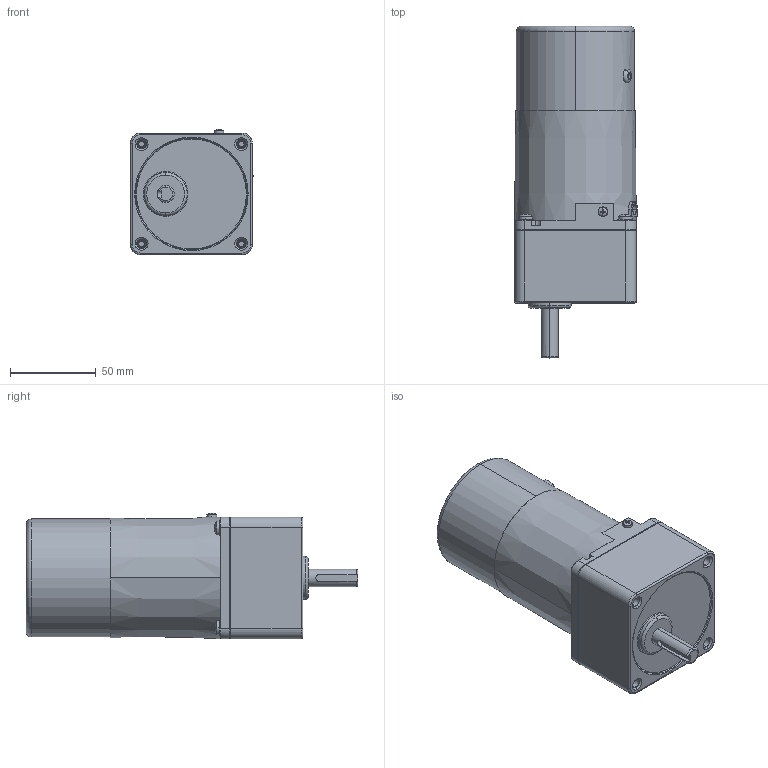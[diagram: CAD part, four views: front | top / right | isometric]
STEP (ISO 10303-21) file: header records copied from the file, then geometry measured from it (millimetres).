
FILE_DESCRIPTION (( 'STEP AP203' ), '1' );
FILE_NAME ('3RK15GN-CM(3GN3K-200K).STEP', '2023-07-27T07:52:43', ( 'Windows User' ), ( 'P R C' ), 'SwSTEP 2.0', 'SolidWorks 2019', '' );
FILE_SCHEMA (( 'CONFIG_CONTROL_DESIGN' ));
Length unit declared in the file: millimetre
Products named in the file (11): PRT0205^3RK15GN-CM(3GN3K-200K)(2)_3RK15GN-CM(3GN3K-200K); 3RK15GN-CM(3GN3K-200K); 3RK15GN-CM-3GN3K-200K_ASM_1_AF0_ASM^3RK15GN-CM(3GN3K-200K)(2)_3RK15GN-CM(3GN3K-200K); PRT0202^3RK15GN-CM(3GN3K-200K)(2)_3RK15GN-CM(3GN3K-200K); 3RK15GN-CM_6_AF0^3RK15GN-CM-3GN3K-200K_ASM_1_AF0_ASM_3RK15GN-CM(3GN3K-200K)(2)_3RK15GN-CM(3GN3K-200K); PRT0204^3RK15GN-CM(3GN3K-200K)(2)_3RK15GN-CM(3GN3K-200K); PRT0206^3RK15GN-CM(3GN3K-200K)(2)_3RK15GN-CM(3GN3K-200K); 3GN3k-200K; PRT0203^3RK15GN-CM(3GN3K-200K)(2)_3RK15GN-CM(3GN3K-200K); 60SCHXQ^3RK15GN-CM(3GN3K-200K)(2)_3RK15GN-CM(3GN3K-200K); 3RK15GN-CM(3GN3K-200K)(2)^3RK15GN-CM(3GN3K-200K)
Assembly tree (13 placements, depth 4):
  3RK15GN-CM(3GN3K-200K)
    3RK15GN-CM(3GN3K-200K)(2)^3RK15GN-CM(3GN3K-200K)
      3RK15GN-CM-3GN3K-200K_ASM_1_AF0_ASM^3RK15GN-CM(3GN3K-200K)(2)_3RK15GN-CM(3GN3K-200K)
        3RK15GN-CM_6_AF0^3RK15GN-CM-3GN3K-200K_ASM_1_AF0_ASM_3RK15GN-CM(3GN3K-200K)(2)_3RK15GN-CM(3GN3K-200K)
      PRT0202^3RK15GN-CM(3GN3K-200K)(2)_3RK15GN-CM(3GN3K-200K)
      PRT0203^3RK15GN-CM(3GN3K-200K)(2)_3RK15GN-CM(3GN3K-200K)
      PRT0204^3RK15GN-CM(3GN3K-200K)(2)_3RK15GN-CM(3GN3K-200K)
      PRT0205^3RK15GN-CM(3GN3K-200K)(2)_3RK15GN-CM(3GN3K-200K)
      60SCHXQ^3RK15GN-CM(3GN3K-200K)(2)_3RK15GN-CM(3GN3K-200K)
      PRT0206^3RK15GN-CM(3GN3K-200K)(2)_3RK15GN-CM(3GN3K-200K)  x4
    3GN3k-200K
Bounding box: 71.46 x 193.02 x 73.06 mm (x, y, z)
Volume: 339340.9 mm3; surface area: 99435.2 mm2
Topology: 11 solids, 11 shells, 1319 faces, 3414 edges, 2124 vertices
Faces by surface type: cone 646, cylinder 381, plane 200, torus 72, sphere 20
Entity records: 27668 total; most frequent: CARTESIAN_POINT 5224, DIRECTION 5031, ORIENTED_EDGE 4252, EDGE_CURVE 2126, AXIS2_PLACEMENT_3D 2120, VERTEX_POINT 1329, CIRCLE 1269, EDGE_LOOP 879
